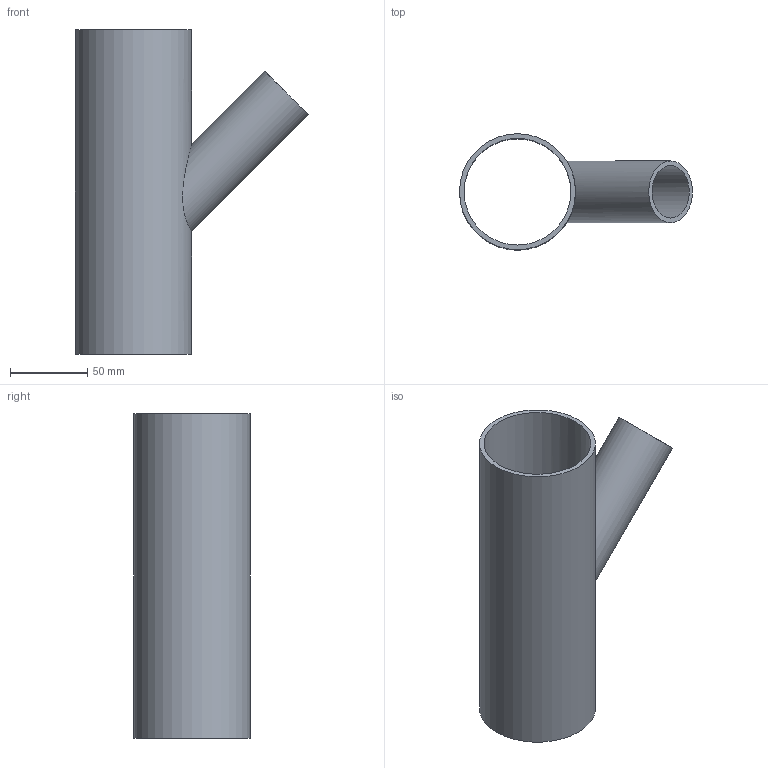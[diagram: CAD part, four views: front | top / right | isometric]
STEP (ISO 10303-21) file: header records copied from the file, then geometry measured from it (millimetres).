
FILE_DESCRIPTION(/* description */ (''),/* implementation_level */ '2;1');
FILE_NAME(/* name */ 'C:\Planerdaten\Export PLA\PRO_101557\stp\365109.stp',/* time_stamp */ '2021-09-30T15:04:39+02:00',/* author */ ('JANAN'),/* organization */ (''),/* preprocessor_version */ 'ST-DEVELOPER v16.13',/* originating_system */ 'Autodesk Inventor 2018',/* authorisation */ '');
FILE_SCHEMA (('AUTOMOTIVE_DESIGN { 1 0 10303 214 3 1 1 }'));
Length unit declared in the file: millimetre
Products named in the file (1): tmp1070.tmp
Bounding box: 150.64 x 75 x 210 mm (x, y, z)
Volume: 170043.4 mm3; surface area: 115037.8 mm2
Topology: 1 solids, 1 shells, 7 faces, 17 edges, 12 vertices
Faces by surface type: cylinder 4, plane 3
Full cylindrical faces by diameter (mm): 34 x1, 40 x1, 69 x1, 75 x1
Entity records: 308 total; most frequent: CARTESIAN_POINT 130, DIRECTION 28, EDGE_LOOP 16, ORIENTED_EDGE 16, AXIS2_PLACEMENT_3D 14, FACE_BOUND 9, VERTEX_POINT 8, EDGE_CURVE 8
